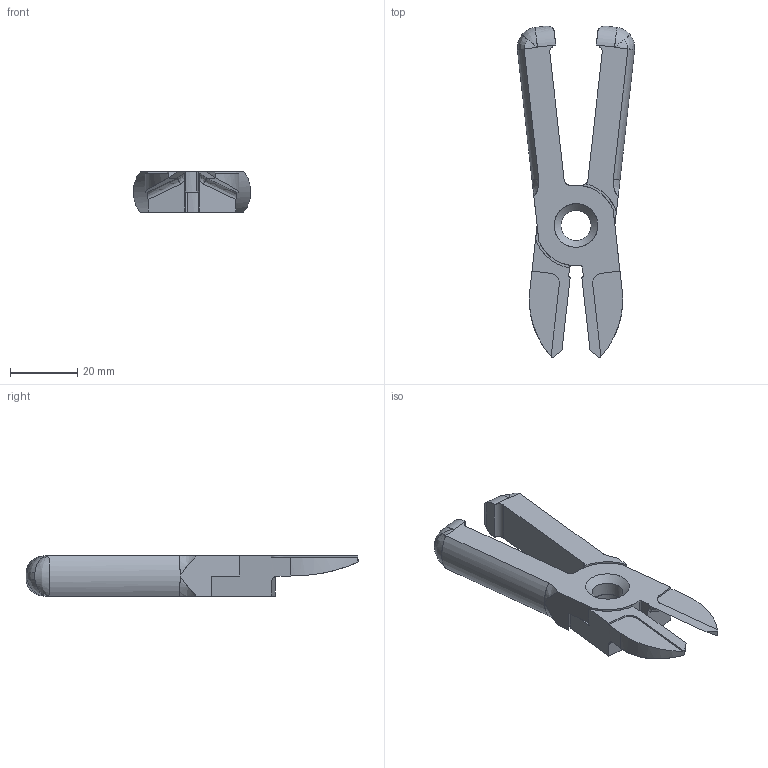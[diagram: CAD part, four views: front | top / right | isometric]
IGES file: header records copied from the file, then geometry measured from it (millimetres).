
Global section: file name: \\Kikaku_server01\kikaku\; native system: Rhinoceros ( Feb 22 2008 ); preprocessor: Trout Lake IGES 012 Feb 22 2008; date: 081001.040959; units: millimetre
Bounding box: 34.93 x 98.88 x 12 mm (x, y, z)
Surface area: 8900.7 mm2 (no closed solid volume)
Topology: 0 solids, 0 shells, 90 faces, 533 edges, 525 vertices
Faces by surface type: bspline 90
